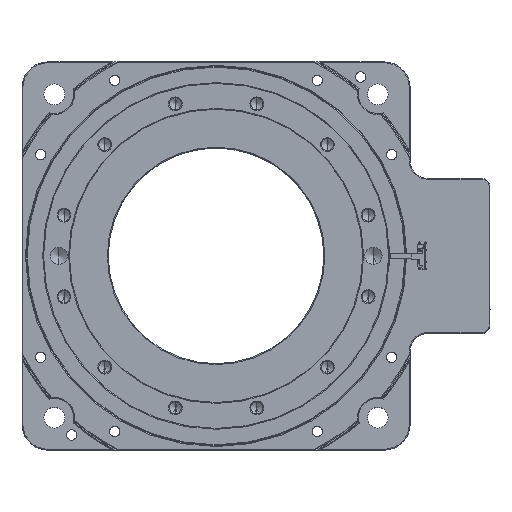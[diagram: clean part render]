
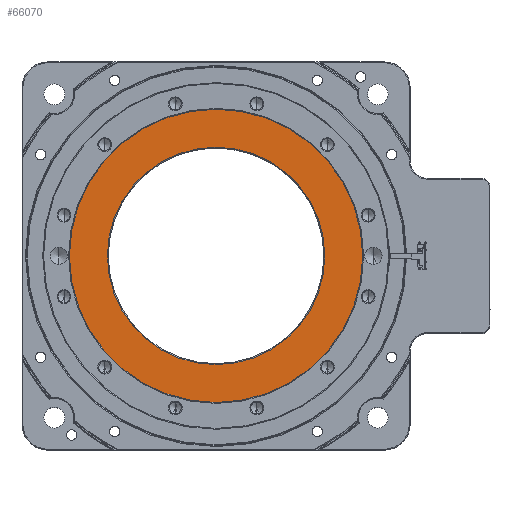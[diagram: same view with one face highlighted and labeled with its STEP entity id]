
A CAD part, top view. The second image highlights one B-rep face of the part: STEP entity #66070.
In plain terms, the highlighted planar face has unit normal (0, 0, 1).
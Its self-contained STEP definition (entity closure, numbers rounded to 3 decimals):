
#1133 = DIRECTION ( 'NONE',  ( 0., 0., 1. ) ) ;
#1591 = DIRECTION ( 'NONE',  ( 0., 0., 1. ) ) ;
#2531 = ORIENTED_EDGE ( 'NONE', *, *, #17263, .T. ) ;
#4028 = CIRCLE ( 'NONE', #46733, 126. ) ;
#7690 = FACE_BOUND ( 'NONE', #62534, .T. ) ;
#9520 = DIRECTION ( 'NONE',  ( 0., -1., 0. ) ) ;
#10883 = CARTESIAN_POINT ( 'NONE',  ( 0., 170., 121.5 ) ) ;
#10998 = DIRECTION ( 'NONE',  ( 0., 0., -1. ) ) ;
#11666 = CARTESIAN_POINT ( 'NONE',  ( 0., 126., 121.5 ) ) ;
#15619 = EDGE_CURVE ( 'NONE', #66675, #17044, #24546, .T. ) ;
#17044 = VERTEX_POINT ( 'NONE', #11666 ) ;
#17263 = EDGE_CURVE ( 'NONE', #20552, #67994, #46359, .T. ) ;
#20552 = VERTEX_POINT ( 'NONE', #55599 ) ;
#24546 = CIRCLE ( 'NONE', #44039, 126. ) ;
#24756 = DIRECTION ( 'NONE',  ( 0., 1., 0. ) ) ;
#29356 = CARTESIAN_POINT ( 'NONE',  ( 0., 0., 121.5 ) ) ;
#29486 = AXIS2_PLACEMENT_3D ( 'NONE', #53851, #1591, #30941 ) ;
#29662 = CIRCLE ( 'NONE', #34570, 170. ) ;
#30112 = ORIENTED_EDGE ( 'NONE', *, *, #47806, .T. ) ;
#30941 = DIRECTION ( 'NONE',  ( 1., 0., 0. ) ) ;
#34246 = DIRECTION ( 'NONE',  ( 0., -1., 0. ) ) ;
#34570 = AXIS2_PLACEMENT_3D ( 'NONE', #29356, #1133, #24756 ) ;
#36327 = PLANE ( 'NONE',  #29486 ) ;
#39828 = ORIENTED_EDGE ( 'NONE', *, *, #66594, .T. ) ;
#39991 = CARTESIAN_POINT ( 'NONE',  ( 0., 0., 121.5 ) ) ;
#40573 = DIRECTION ( 'NONE',  ( 0., 0., -1. ) ) ;
#42412 = FACE_OUTER_BOUND ( 'NONE', #75363, .T. ) ;
#44039 = AXIS2_PLACEMENT_3D ( 'NONE', #39991, #10998, #34246 ) ;
#46305 = CARTESIAN_POINT ( 'NONE',  ( 0., 0., 121.5 ) ) ;
#46359 = CIRCLE ( 'NONE', #70741, 170. ) ;
#46733 = AXIS2_PLACEMENT_3D ( 'NONE', #46305, #40573, #58492 ) ;
#47806 = EDGE_CURVE ( 'NONE', #17044, #66675, #4028, .T. ) ;
#53851 = CARTESIAN_POINT ( 'NONE',  ( 0., 0., 121.5 ) ) ;
#55599 = CARTESIAN_POINT ( 'NONE',  ( 0., -170., 121.5 ) ) ;
#55707 = ORIENTED_EDGE ( 'NONE', *, *, #15619, .T. ) ;
#57452 = CARTESIAN_POINT ( 'NONE',  ( 0., -126., 121.5 ) ) ;
#58492 = DIRECTION ( 'NONE',  ( 0., 1., 0. ) ) ;
#61760 = DIRECTION ( 'NONE',  ( 0., 0., 1. ) ) ;
#62534 = EDGE_LOOP ( 'NONE', ( #55707, #30112 ) ) ;
#66070 = ADVANCED_FACE ( 'NONE', ( #42412, #7690 ), #36327, .T. ) ;
#66594 = EDGE_CURVE ( 'NONE', #67994, #20552, #29662, .T. ) ;
#66675 = VERTEX_POINT ( 'NONE', #57452 ) ;
#67853 = CARTESIAN_POINT ( 'NONE',  ( 0., 0., 121.5 ) ) ;
#67994 = VERTEX_POINT ( 'NONE', #10883 ) ;
#70741 = AXIS2_PLACEMENT_3D ( 'NONE', #67853, #61760, #9520 ) ;
#75363 = EDGE_LOOP ( 'NONE', ( #39828, #2531 ) ) ;
